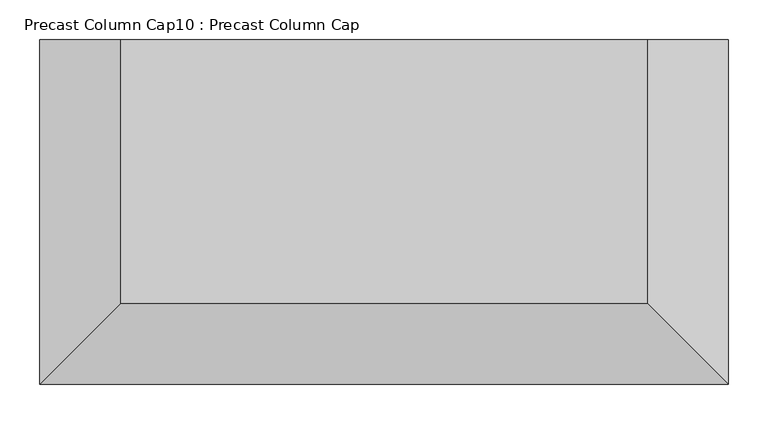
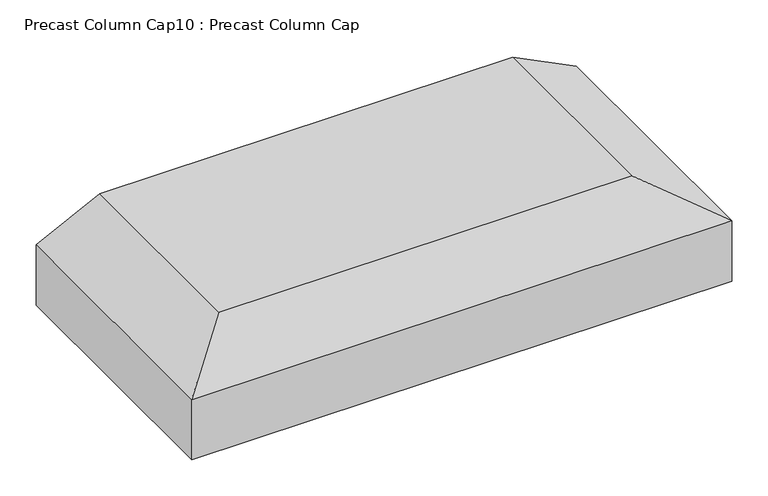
"""IFC4 building model written with IfcOpenShell, lengths in millimetres: proxy geometry, Precast Column Cap10 : Precast Column Cap."""

import ifcopenshell
import ifcopenshell.guid

model = None  # the IFC model being written
_history = None  # IfcOwnerHistory: only IFC2X3 demands one
_inside = {}  # id of a spatial element -> (the spatial element, [elements in it])
_under = {}  # id of a project, library or spatial element -> (it, [spatial elements below it])
_declared = {}  # id of a project -> (the project, [libraries it declares])
_typed = {}  # id of a type object -> (the type object, [elements of that type])
_made_of = {}  # id of a material, layer set ... -> (it, [elements and type objects made of it])


def new_model(schema):
    """Start an empty IFC model of exactly this schema.

    Asked for "IFC4X3", IfcOpenShell would pick the latest addendum, in which some entities
    have other attributes; the version numbers below select the first issue.
    IFC2X3 requires an IfcOwnerHistory on every rooted entity: one is made here for all.
    """
    global model, _history
    if schema == "IFC4X3":
        model = ifcopenshell.file(schema_version=(4, 3, 0, 0))
    else:
        model = ifcopenshell.file(schema=schema)
    _inside.clear()
    _under.clear()
    _declared.clear()
    _typed.clear()
    _made_of.clear()
    _history = None
    if model.schema == "IFC2X3":
        org = make("IfcOrganization", Name="unknown")
        user = make(
            "IfcPersonAndOrganization",
            ThePerson=make("IfcPerson", FamilyName="unknown"),
            TheOrganization=org,
        )
        app = make(
            "IfcApplication",
            ApplicationDeveloper=org,
            Version="unknown",
            ApplicationFullName="unknown",
            ApplicationIdentifier="unknown",
        )
        _history = make(
            "IfcOwnerHistory",
            OwningUser=user,
            OwningApplication=app,
            ChangeAction="ADDED",
            CreationDate=0,
        )
    return model


def make(cls, **values):
    """One entity of the class cls with the attributes given. An attribute that is None is left unset."""
    return model.create_entity(
        cls, **{name: value for name, value in values.items() if value is not None}
    )


def rooted(cls, **values):
    """An entity with a GlobalId (a new one), such as an element, a storey or a relation."""
    return make(cls, GlobalId=ifcopenshell.guid.new(), OwnerHistory=_history, **values)


def si_unit(unit_type, name, prefix=None):
    """IfcSIUnit, for example si_unit("LENGTHUNIT", "METRE", prefix="MILLI")."""
    return make("IfcSIUnit", UnitType=unit_type, Prefix=prefix, Name=name)


def assignment(units):
    """IfcUnitAssignment: the units of a project."""
    return None if units is None else make("IfcUnitAssignment", Units=units)


def point(xyz):
    """IfcCartesianPoint."""
    return None if xyz is None else make("IfcCartesianPoint", Coordinates=xyz)


def direction(xyz):
    """IfcDirection."""
    return None if xyz is None else make("IfcDirection", DirectionRatios=xyz)


def frame(location, z_axis=None, x_axis=None):
    """IfcAxis2Placement3D, a coordinate frame: its origin and axes. An axis left out is left unset."""
    return make(
        "IfcAxis2Placement3D",
        Location=point(location),
        Axis=direction(z_axis),
        RefDirection=direction(x_axis),
    )


def origin():
    """The frame at (0, 0, 0) with its axes left unset."""
    return frame((0.0, 0.0, 0.0))


def place(relative_to, where):
    """IfcLocalPlacement: puts the frame where relative to a parent placement (None: the world)."""
    return make(
        "IfcLocalPlacement", PlacementRelTo=relative_to, RelativePlacement=where
    )


def context(
    kind, dimensions, precision=None, world=None, true_north=None, identifier=None
):
    """IfcGeometricRepresentationContext, for example the 3D "Model" context."""
    return make(
        "IfcGeometricRepresentationContext",
        ContextIdentifier=identifier,
        ContextType=kind,
        CoordinateSpaceDimension=dimensions,
        Precision=precision,
        WorldCoordinateSystem=world,
        TrueNorth=true_north,
    )


def project(units=None, contexts=None):
    """IfcProject with its units and contexts."""
    return rooted(
        "IfcProject",
        Name="project",
        RepresentationContexts=contexts,
        UnitsInContext=assignment(units),
    )


def spatial(cls, under=None, at=None, **own):
    """A site, building, storey or space (cls), placed at a placement, below another one or the project."""
    s = rooted(cls, ObjectPlacement=at, **own)
    if under is not None:
        _under.setdefault(under.id(), (under, []))[1].append(s)
    return s


def faces_of(points, faces, orient=None, outer=None):
    """IfcFace entities. A face is a list of loops; a loop is a list of indices into points, from 0.

    orient and outer hold one flag for each loop. By default every Orientation is true, the
    first loop of a face is its IfcFaceOuterBound and the others are IfcFaceBound.
    """
    made = []
    for i, loops in enumerate(faces):
        bounds = []
        for j, loop in enumerate(loops):
            is_outer = j == 0 if outer is None else outer[i][j]
            bounds.append(
                make(
                    "IfcFaceOuterBound" if is_outer else "IfcFaceBound",
                    Bound=make("IfcPolyLoop", Polygon=[points[k] for k in loop]),
                    Orientation=True if orient is None else orient[i][j],
                )
            )
        made.append(make("IfcFace", Bounds=bounds))
    return made


def faceted_brep(points, faces, orient=None, outer=None, voids=None):
    """IfcFacetedBrep: a solid bounded by flat faces; with voids (closed shells), ...WithVoids."""
    shared = [point(p) for p in points]
    hull = make("IfcClosedShell", CfsFaces=faces_of(shared, faces, orient, outer))
    if voids is None:
        return make("IfcFacetedBrep", Outer=hull)
    return make(
        "IfcFacetedBrepWithVoids",
        Outer=hull,
        Voids=[
            make(cls, CfsFaces=faces_of(shared, fs, o, b)) for cls, fs, o, b in voids
        ],
    )


def shape(context_of_items, identifier, shape_type, items):
    """IfcShapeRepresentation: the items that make up one representation, for example the "Body"."""
    return make(
        "IfcShapeRepresentation",
        ContextOfItems=context_of_items,
        RepresentationIdentifier=identifier,
        RepresentationType=shape_type,
        Items=items,
    )


def source(mapping_origin, context_of_items, identifier, shape_type, items):
    """IfcRepresentationMap: a shape defined once, which mapped items show again and again."""
    return make(
        "IfcRepresentationMap",
        MappingOrigin=mapping_origin,
        MappedRepresentation=shape(context_of_items, identifier, shape_type, items),
    )


def transform(
    local_origin,
    x_axis=None,
    y_axis=None,
    z_axis=None,
    scale=None,
    scale2=None,
    scale3=None,
    uniform=True,
):
    """IfcCartesianTransformationOperator3D, or its non-uniform kind. x_axis, y_axis, z_axis: its Axis1, 2, 3."""
    if uniform:
        return make(
            "IfcCartesianTransformationOperator3D",
            Axis1=direction(x_axis),
            Axis2=direction(y_axis),
            LocalOrigin=point(local_origin),
            Scale=scale,
            Axis3=direction(z_axis),
        )
    return make(
        "IfcCartesianTransformationOperator3DnonUniform",
        Axis1=direction(x_axis),
        Axis2=direction(y_axis),
        LocalOrigin=point(local_origin),
        Scale=scale,
        Axis3=direction(z_axis),
        Scale2=scale2,
        Scale3=scale3,
    )


def mapped(mapping_source, mapping_target):
    """IfcMappedItem: shows the shape of a source again, moved by a transform."""
    return make(
        "IfcMappedItem", MappingSource=mapping_source, MappingTarget=mapping_target
    )


def made_of(thing, what):
    """Note that an element or type object is made of a material, layer set ...; save() writes the relation."""
    if what is not None:
        _made_of.setdefault(what.id(), (what, []))[1].append(thing)
    return thing


def element(
    cls,
    number,
    at=None,
    inside=None,
    cuts=None,
    type_object=None,
    material=None,
    context=None,
    identifier="Body",
    shape_type=None,
    held_by="IfcProductDefinitionShape",
    body=None,
    shapes=None,
    **own,
):
    """One element of the class cls, such as IfcWall. Its Tag is "e" and its number.

    at: its placement. inside: the storey or other place that contains it. cuts: it is an
    opening in that element (IfcRelVoidsElement). A single representation is given by context,
    identifier, shape_type and body (its items); several are given by shapes. held_by: the class
    of the entity that holds the representations. save() writes the other relations.
    """
    e = rooted(cls, Tag="e%d" % number, ObjectPlacement=at, **own)
    if body is not None:
        shapes = [shape(context, identifier, shape_type, body)]
    if shapes is not None:
        e.Representation = make(held_by, Representations=shapes)
    if inside is not None:
        _inside.setdefault(inside.id(), (inside, []))[1].append(e)
    if cuts is not None:
        rooted(
            "IfcRelVoidsElement", RelatingBuildingElement=cuts, RelatedOpeningElement=e
        )
    if type_object is not None:
        _typed.setdefault(type_object.id(), (type_object, []))[1].append(e)
    return made_of(e, material)


def aggregate(whole, parts):
    """IfcRelAggregates: a whole, such as a stair, and the parts it consists of."""
    return rooted("IfcRelAggregates", RelatingObject=whole, RelatedObjects=parts)


def save(model, path):
    """Write the relations noted so far, then the file.

    IfcRelAggregates (storeys below a building ...), IfcRelContainedInSpatialStructure (elements
    in a storey), IfcRelDefinesByType, IfcRelAssociatesMaterial and IfcRelDeclares: one each for
    every whole, place, type object, material and project.
    """
    for whole, parts in _under.values():
        aggregate(whole, parts)
    for where, things in _inside.values():
        rooted(
            "IfcRelContainedInSpatialStructure",
            RelatedElements=things,
            RelatingStructure=where,
        )
    for kind, things in _typed.values():
        rooted("IfcRelDefinesByType", RelatedObjects=things, RelatingType=kind)
    for what, things in _made_of.values():
        rooted("IfcRelAssociatesMaterial", RelatedObjects=things, RelatingMaterial=what)
    for by, libraries in _declared.values():
        rooted("IfcRelDeclares", RelatingContext=by, RelatedDefinitions=libraries)
    model.write(path)


def precast_column_cap10_precast_column_cap_2545b0d7(model_context):
    return source(origin(), model_context, "Body", "Brep", [
        faceted_brep([(-4607.035253, -6257.7989595, 35306.0), (-5267.435253, -6257.7989595, 35306.0), (-5267.435253, -6587.9989595, 35306.0), (-4607.035253, -6587.9989595, 35306.0), (-4505.435253, -6257.7989595, 35255.2), (-4505.435253, -6257.7989595, 35153.6), (-5369.035253, -6257.7989595, 35153.6), (-5369.035253, -6257.7989595, 35255.2), (-5369.035253, -6689.5989595, 35255.2), (-4505.435253, -6689.5989595, 35255.2), (-4505.435253, -6689.5989595, 35153.6), (-5369.035253, -6689.5989595, 35153.6)], [[[0, 1, 2, 3]], [[1, 0, 4, 5, 6, 7]], [[2, 1, 7, 8]], [[3, 2, 8, 9]], [[0, 3, 9, 4]], [[10, 11, 6, 5]], [[10, 5, 4, 9]], [[6, 11, 8, 7]], [[11, 10, 9, 8]]]),
    ])


if __name__ == "__main__":
    model = new_model("IFC4")
    model_context = context("Model", 3, world=origin())
    ifc_project = project(units=[si_unit("LENGTHUNIT", "METRE", prefix="MILLI")], contexts=[model_context])
    site = spatial("IfcSite", under=ifc_project)
    building = spatial("IfcBuilding", under=site)
    placement = place(None, origin())
    precast_column_cap10_precast_column_cap_shape = precast_column_cap10_precast_column_cap_2545b0d7(model_context)
    element("IfcBuildingElementProxy", 1, Name="Precast Column Cap10 : Precast Column Cap", ObjectType="Precast Column Cap10 : Precast Column Cap", at=placement, inside=building, context=model_context, shape_type="MappedRepresentation", body=[
        mapped(precast_column_cap10_precast_column_cap_shape, transform((0.0, 0.0, 0.0), x_axis=(1.0, 0.0, 0.0), y_axis=(0.0, 1.0, 0.0), z_axis=(0.0, 0.0, 1.0))),
    ])
    save(model, "model.ifc")
